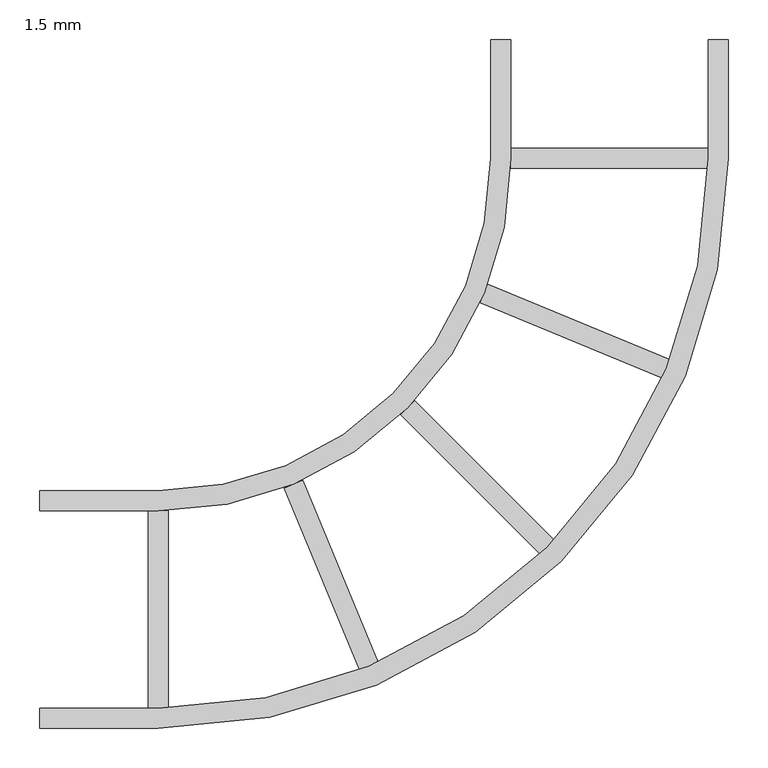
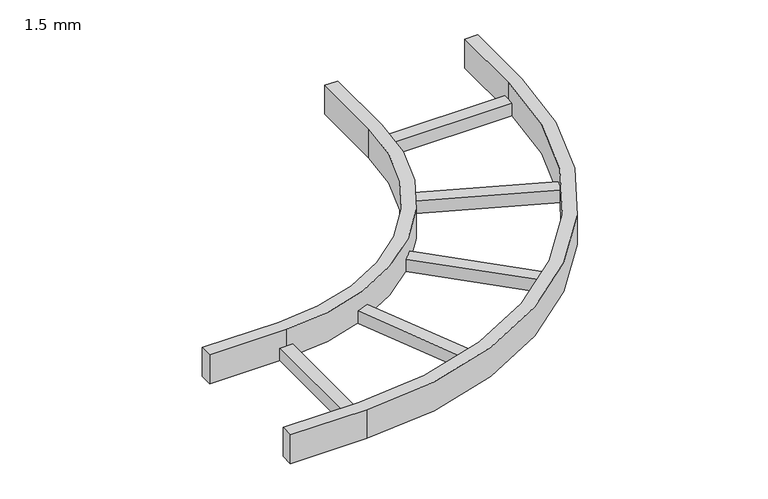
"""IFC4 building model written with IfcOpenShell, lengths in millimetres: cable carrier fitting geometry, BAKS_Łuk_drabiny E90 : 1.5 mm."""

from ifc_helpers import new_model, si_unit, point, frame, frame_2d, origin, place, context, project, spatial, polyline, circle_curve, trimmed, segment, composite_curve, outline, extrude, source, transform, mapped, element, save


def cable_carrier_fitting_1_5_mm_3523910d(model_context):
    return source(origin(), model_context, "Body", "SweptSolid", [
        extrude(outline(polyline([(-163.3641358, 387.8195292), (-153.6439766, 411.2860693), (76.5868029, 315.9213579), (66.8666437, 292.4548178), (-163.3641358, 387.8195292)])), frame((0.0, 0.0, -30.0), z_axis=(0.0, 0.0, 1.0), x_axis=(1.0, 0.0, 0.0)), (0.0, 0.0, 1.0), 25.4),
        extrude(outline(polyline([(-411.2860693, 153.6439766), (-387.8195292, 163.3641358), (-292.4548178, -66.8666437), (-315.9213579, -76.5868029), (-411.2860693, 153.6439766)])), frame((0.0, 0.0, -30.0), z_axis=(0.0, 0.0, 1.0), x_axis=(1.0, 0.0, 0.0)), (0.0, 0.0, 1.0), 25.4),
        extrude(outline(polyline([(-124.6, 557.3), (-124.6, 582.7), (124.6, 582.7), (124.6, 557.3), (-124.6, 557.3)])), frame((0.0, 0.0, -30.0), z_axis=(0.0, 0.0, 1.0), x_axis=(1.0, 0.0, 0.0)), (0.0, 0.0, 1.0), 25.4),
        extrude(outline(polyline([(-582.7, 124.6), (-557.3, 124.6), (-557.3, -124.6), (-582.7, -124.6), (-582.7, 124.6)])), frame((0.0, 0.0, -30.0), z_axis=(0.0, 0.0, 1.0), x_axis=(1.0, 0.0, 0.0)), (0.0, 0.0, 1.0), 25.4),
        extrude(outline(polyline([(-264.0348958, 246.0743835), (-246.0743835, 264.0348958), (-69.8633737, 87.8238859), (-87.8238859, 69.8633737), (-264.0348958, 246.0743835)])), frame((0.0, 0.0, -30.0), z_axis=(0.0, 0.0, 1.0), x_axis=(1.0, 0.0, 0.0)), (0.0, 0.0, 1.0), 25.4),
        extrude(outline(composite_curve([segment(polyline([(-720.0, -150.0), (-720.0, -124.6), (-570.0, -124.6)]), True, "CONTINUOUS"), segment(trimmed(circle_curve(frame_2d((-570.0, 570.0)), 694.6), [point((-570.0, -124.6))], [point((124.6, 570.0))], True, "CARTESIAN"), True, "CONTINUOUS"), segment(polyline([(124.6, 570.0), (124.6, 720.0), (150.0, 720.0), (150.0, 570.0)]), True, "CONTINUOUS"), segment(trimmed(circle_curve(frame_2d((-570.0, 570.0)), 720.0), [point((150.0, 570.0))], [point((-570.0, -150.0))], False, "CARTESIAN"), True, "CONTINUOUS"), segment(polyline([(-570.0, -150.0), (-720.0, -150.0)]), True, "CONTINUOUS")], self_intersect=False)), frame((0.0, 0.0, -30.0), z_axis=(0.0, 0.0, 1.0), x_axis=(1.0, 0.0, 0.0)), (0.0, 0.0, 1.0), 60.0),
        extrude(outline(composite_curve([segment(polyline([(-720.0, 124.6), (-720.0, 150.0), (-570.0, 150.0)]), True, "CONTINUOUS"), segment(trimmed(circle_curve(frame_2d((-570.0, 570.0)), 420.0), [point((-570.0, 150.0))], [point((-150.0, 570.0))], True, "CARTESIAN"), True, "CONTINUOUS"), segment(polyline([(-150.0, 570.0), (-150.0, 720.0), (-124.6, 720.0), (-124.6, 570.0)]), True, "CONTINUOUS"), segment(trimmed(circle_curve(frame_2d((-570.0, 570.0)), 445.4), [point((-124.6, 570.0))], [point((-570.0, 124.6))], False, "CARTESIAN"), True, "CONTINUOUS"), segment(polyline([(-570.0, 124.6), (-720.0, 124.6)]), True, "CONTINUOUS")], self_intersect=False)), frame((0.0, 0.0, -30.0), z_axis=(0.0, 0.0, 1.0), x_axis=(1.0, 0.0, 0.0)), (0.0, 0.0, 1.0), 60.0),
    ])


if __name__ == "__main__":
    model = new_model("IFC4")
    model_context = context("Model", 3, world=origin())
    ifc_project = project(units=[si_unit("LENGTHUNIT", "METRE", prefix="MILLI")], contexts=[model_context])
    site = spatial("IfcSite", under=ifc_project)
    building = spatial("IfcBuilding", under=site)
    placement = place(None, origin())
    cable_carrier_fitting_1_5_mm_shape = cable_carrier_fitting_1_5_mm_3523910d(model_context)
    element("IfcCableCarrierFitting", 1, ObjectType="BAKS_Łuk_drabiny E90 : 1.5 mm", at=placement, inside=building, context=model_context, shape_type="MappedRepresentation", body=[
        mapped(cable_carrier_fitting_1_5_mm_shape, transform((0.0, 0.0, 0.0), x_axis=(1.0, 0.0, 0.0), y_axis=(0.0, 1.0, 0.0), z_axis=(0.0, 0.0, 1.0))),
    ])
    save(model, "model.ifc")
